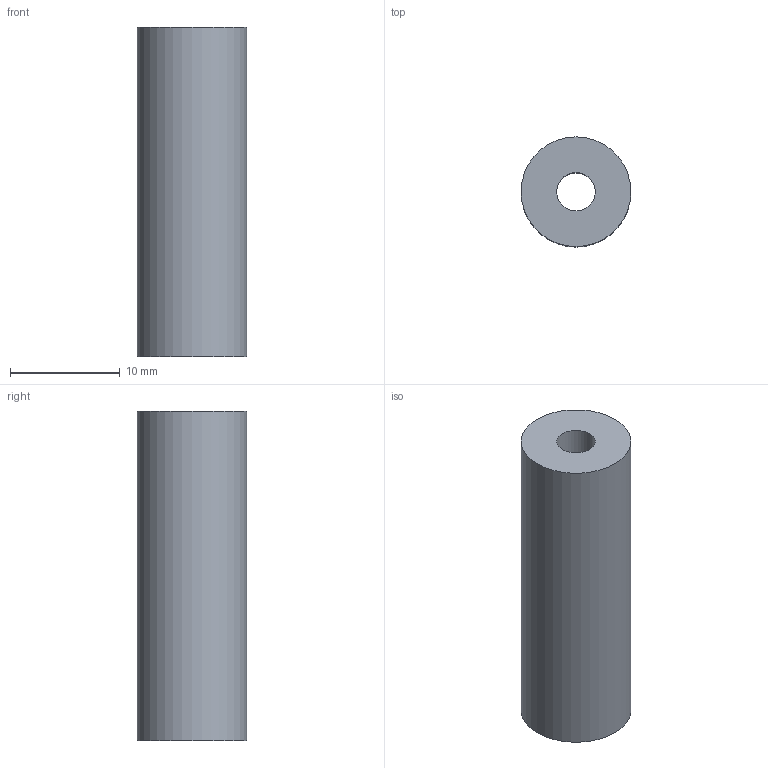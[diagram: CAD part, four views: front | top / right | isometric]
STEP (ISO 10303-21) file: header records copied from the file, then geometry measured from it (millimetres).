
FILE_DESCRIPTION(('Open CASCADE Model'),'2;1');
FILE_NAME('Open CASCADE Shape Model','2026-10-12T22:10:13',('Author'),( 'Open CASCADE'),'Open CASCADE STEP processor 7.9','Open CASCADE 7.9' ,'Unknown');
FILE_SCHEMA(('AUTOMOTIVE_DESIGN { 1 0 10303 214 1 1 1 1 }'));
Length unit declared in the file: millimetre
Products named in the file (1): Open CASCADE STEP translator 7.9 4
Bounding box: 10 x 10 x 30 mm (x, y, z)
Volume: 2067.6 mm3; surface area: 1410.2 mm2
Topology: 1 solids, 1 shells, 4 faces, 6 edges, 4 vertices
Faces by surface type: cylinder 2, plane 2
Full cylindrical faces by diameter (mm): 3.5 x1, 10 x1
Entity records: 186 total; most frequent: DIRECTION 32, CARTESIAN_POINT 27, ORIENTED_EDGE 12, PCURVE 12, DEFINITIONAL_REPRESENTATION 12, LINE 10, VECTOR 10, AXIS2_PLACEMENT_3D 9
